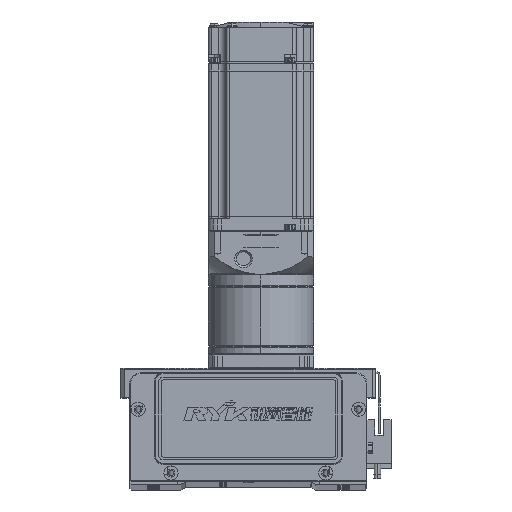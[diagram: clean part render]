
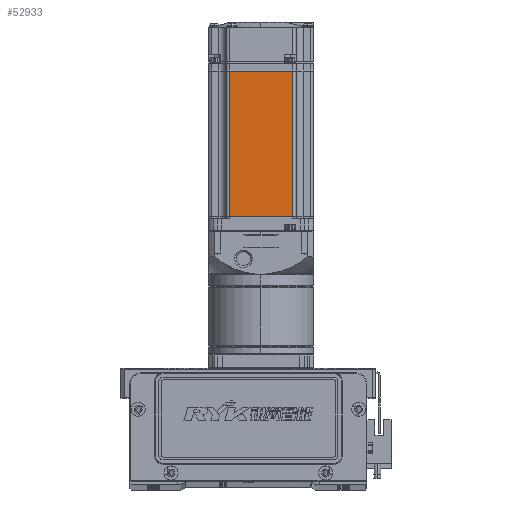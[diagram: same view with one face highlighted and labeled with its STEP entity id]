
A CAD part, top view. The second image highlights one B-rep face of the part: STEP entity #52933.
In plain terms, the highlighted planar face has unit normal (0, 0, 1).
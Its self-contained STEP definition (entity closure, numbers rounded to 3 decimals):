
#89 = DIRECTION ( 'NONE',  ( 0., 0., 1. ) ) ;
#3749 = ORIENTED_EDGE ( 'NONE', *, *, #51315, .T. ) ;
#4047 = CARTESIAN_POINT ( 'NONE',  ( -90.45, 18., 30. ) ) ;
#6007 = CARTESIAN_POINT ( 'NONE',  ( -7.75, 0., 30. ) ) ;
#6307 = DIRECTION ( 'NONE',  ( 1., 0., 0. ) ) ;
#12222 = CARTESIAN_POINT ( 'NONE',  ( -90.45, -18., 30. ) ) ;
#12321 = PLANE ( 'NONE',  #36121 ) ;
#13669 = VERTEX_POINT ( 'NONE', #29521 ) ;
#16613 = VERTEX_POINT ( 'NONE', #4047 ) ;
#18616 = EDGE_CURVE ( 'NONE', #48122, #43298, #65942, .T. ) ;
#22423 = LINE ( 'NONE', #59462, #77050 ) ;
#22664 = VECTOR ( 'NONE', #75779, 1000. ) ;
#24058 = CARTESIAN_POINT ( 'NONE',  ( -6.5, 18., 30. ) ) ;
#29521 = CARTESIAN_POINT ( 'NONE',  ( -7.75, 18., 30. ) ) ;
#34013 = CARTESIAN_POINT ( 'NONE',  ( -6.5, -18., 30. ) ) ;
#36121 = AXIS2_PLACEMENT_3D ( 'NONE', #71185, #89, #6307 ) ;
#38064 = DIRECTION ( 'NONE',  ( 0., -1., 0. ) ) ;
#39740 = EDGE_CURVE ( 'NONE', #13669, #16613, #39873, .T. ) ;
#39873 = LINE ( 'NONE', #24058, #22664 ) ;
#40632 = VECTOR ( 'NONE', #79265, 1000. ) ;
#43298 = VERTEX_POINT ( 'NONE', #12222 ) ;
#48122 = VERTEX_POINT ( 'NONE', #53094 ) ;
#48590 = FACE_OUTER_BOUND ( 'NONE', #51182, .T. ) ;
#49311 = ORIENTED_EDGE ( 'NONE', *, *, #39740, .T. ) ;
#51182 = EDGE_LOOP ( 'NONE', ( #51487, #49311, #3749, #73247 ) ) ;
#51315 = EDGE_CURVE ( 'NONE', #16613, #43298, #22423, .T. ) ;
#51487 = ORIENTED_EDGE ( 'NONE', *, *, #54631, .F. ) ;
#52933 = ADVANCED_FACE ( 'NONE', ( #48590 ), #12321, .T. ) ;
#53094 = CARTESIAN_POINT ( 'NONE',  ( -7.75, -18., 30. ) ) ;
#54569 = DIRECTION ( 'NONE',  ( 0., -1., 0. ) ) ;
#54631 = EDGE_CURVE ( 'NONE', #13669, #48122, #60931, .T. ) ;
#59462 = CARTESIAN_POINT ( 'NONE',  ( -90.45, 0., 30. ) ) ;
#60931 = LINE ( 'NONE', #6007, #67053 ) ;
#65942 = LINE ( 'NONE', #34013, #40632 ) ;
#67053 = VECTOR ( 'NONE', #38064, 1000. ) ;
#71185 = CARTESIAN_POINT ( 'NONE',  ( -6.5, -25., 30. ) ) ;
#73247 = ORIENTED_EDGE ( 'NONE', *, *, #18616, .F. ) ;
#75779 = DIRECTION ( 'NONE',  ( -1., 0., 0. ) ) ;
#77050 = VECTOR ( 'NONE', #54569, 1000. ) ;
#79265 = DIRECTION ( 'NONE',  ( -1., 0., 0. ) ) ;
